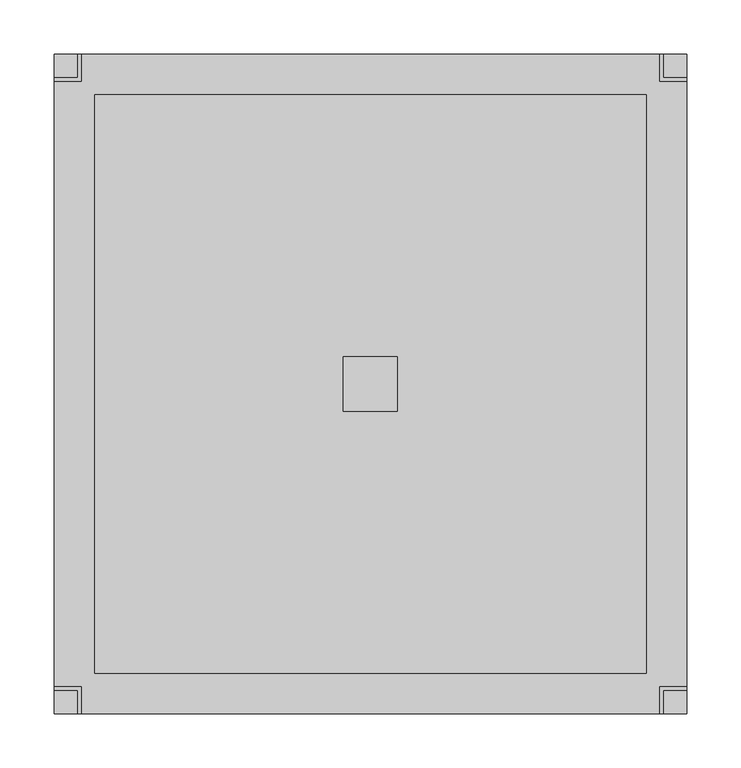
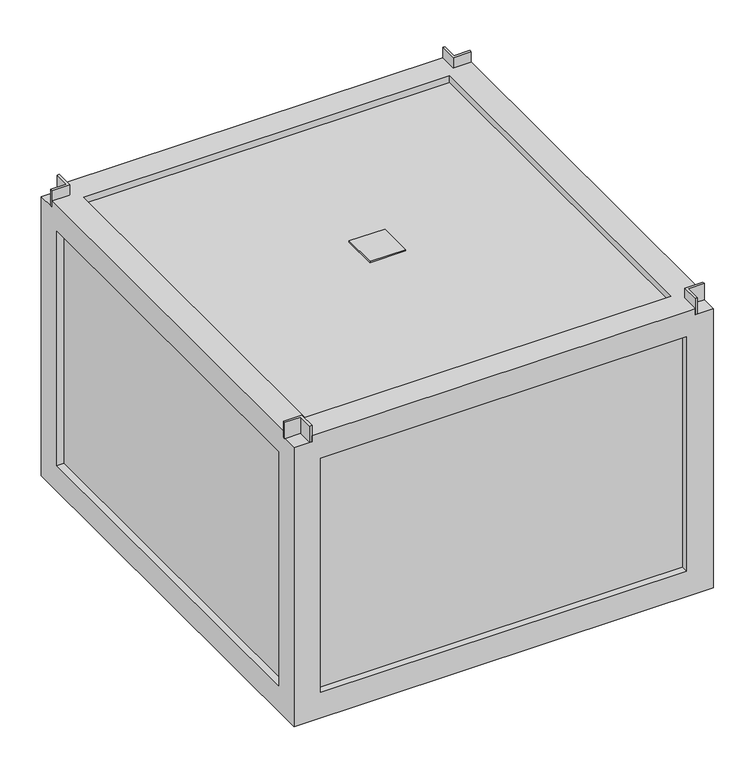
"""IFC4 building model written with IfcOpenShell, lengths in millimetres: proxy geometry, KORF_Вентилятор_UTR_WRH : UTR 40-20 WRH 22.4D."""

import ifcopenshell
import ifcopenshell.guid

model = None  # the IFC model being written
_history = None  # IfcOwnerHistory: only IFC2X3 demands one
_inside = {}  # id of a spatial element -> (the spatial element, [elements in it])
_under = {}  # id of a project, library or spatial element -> (it, [spatial elements below it])
_declared = {}  # id of a project -> (the project, [libraries it declares])
_typed = {}  # id of a type object -> (the type object, [elements of that type])
_made_of = {}  # id of a material, layer set ... -> (it, [elements and type objects made of it])


def new_model(schema):
    """Start an empty IFC model of exactly this schema.

    Asked for "IFC4X3", IfcOpenShell would pick the latest addendum, in which some entities
    have other attributes; the version numbers below select the first issue.
    IFC2X3 requires an IfcOwnerHistory on every rooted entity: one is made here for all.
    """
    global model, _history
    if schema == "IFC4X3":
        model = ifcopenshell.file(schema_version=(4, 3, 0, 0))
    else:
        model = ifcopenshell.file(schema=schema)
    _inside.clear()
    _under.clear()
    _declared.clear()
    _typed.clear()
    _made_of.clear()
    _history = None
    if model.schema == "IFC2X3":
        org = make("IfcOrganization", Name="unknown")
        user = make(
            "IfcPersonAndOrganization",
            ThePerson=make("IfcPerson", FamilyName="unknown"),
            TheOrganization=org,
        )
        app = make(
            "IfcApplication",
            ApplicationDeveloper=org,
            Version="unknown",
            ApplicationFullName="unknown",
            ApplicationIdentifier="unknown",
        )
        _history = make(
            "IfcOwnerHistory",
            OwningUser=user,
            OwningApplication=app,
            ChangeAction="ADDED",
            CreationDate=0,
        )
    return model


def make(cls, **values):
    """One entity of the class cls with the attributes given. An attribute that is None is left unset."""
    return model.create_entity(
        cls, **{name: value for name, value in values.items() if value is not None}
    )


def rooted(cls, **values):
    """An entity with a GlobalId (a new one), such as an element, a storey or a relation."""
    return make(cls, GlobalId=ifcopenshell.guid.new(), OwnerHistory=_history, **values)


def si_unit(unit_type, name, prefix=None):
    """IfcSIUnit, for example si_unit("LENGTHUNIT", "METRE", prefix="MILLI")."""
    return make("IfcSIUnit", UnitType=unit_type, Prefix=prefix, Name=name)


def assignment(units):
    """IfcUnitAssignment: the units of a project."""
    return None if units is None else make("IfcUnitAssignment", Units=units)


def point(xyz):
    """IfcCartesianPoint."""
    return None if xyz is None else make("IfcCartesianPoint", Coordinates=xyz)


def direction(xyz):
    """IfcDirection."""
    return None if xyz is None else make("IfcDirection", DirectionRatios=xyz)


def frame(location, z_axis=None, x_axis=None):
    """IfcAxis2Placement3D, a coordinate frame: its origin and axes. An axis left out is left unset."""
    return make(
        "IfcAxis2Placement3D",
        Location=point(location),
        Axis=direction(z_axis),
        RefDirection=direction(x_axis),
    )


def origin():
    """The frame at (0, 0, 0) with its axes left unset."""
    return frame((0.0, 0.0, 0.0))


def place(relative_to, where):
    """IfcLocalPlacement: puts the frame where relative to a parent placement (None: the world)."""
    return make(
        "IfcLocalPlacement", PlacementRelTo=relative_to, RelativePlacement=where
    )


def context(
    kind, dimensions, precision=None, world=None, true_north=None, identifier=None
):
    """IfcGeometricRepresentationContext, for example the 3D "Model" context."""
    return make(
        "IfcGeometricRepresentationContext",
        ContextIdentifier=identifier,
        ContextType=kind,
        CoordinateSpaceDimension=dimensions,
        Precision=precision,
        WorldCoordinateSystem=world,
        TrueNorth=true_north,
    )


def project(units=None, contexts=None):
    """IfcProject with its units and contexts."""
    return rooted(
        "IfcProject",
        Name="project",
        RepresentationContexts=contexts,
        UnitsInContext=assignment(units),
    )


def spatial(cls, under=None, at=None, **own):
    """A site, building, storey or space (cls), placed at a placement, below another one or the project."""
    s = rooted(cls, ObjectPlacement=at, **own)
    if under is not None:
        _under.setdefault(under.id(), (under, []))[1].append(s)
    return s


def polyline(points):
    """IfcPolyline through the points."""
    return make("IfcPolyline", Points=[point(p) for p in points])


def outline(outer, holes=None, kind="AREA"):
    """IfcArbitraryClosedProfileDef: a profile drawn as a closed curve; with holes, ...WithVoids."""
    if holes is None:
        return make("IfcArbitraryClosedProfileDef", ProfileType=kind, OuterCurve=outer)
    return make(
        "IfcArbitraryProfileDefWithVoids",
        ProfileType=kind,
        OuterCurve=outer,
        InnerCurves=holes,
    )


def extrude(swept, where, along, depth):
    """IfcExtrudedAreaSolid: the profile swept, set in the frame where, extruded along a direction by depth."""
    return make(
        "IfcExtrudedAreaSolid",
        SweptArea=swept,
        Position=where,
        ExtrudedDirection=direction(along),
        Depth=depth,
    )


def faces_of(points, faces, orient=None, outer=None):
    """IfcFace entities. A face is a list of loops; a loop is a list of indices into points, from 0.

    orient and outer hold one flag for each loop. By default every Orientation is true, the
    first loop of a face is its IfcFaceOuterBound and the others are IfcFaceBound.
    """
    made = []
    for i, loops in enumerate(faces):
        bounds = []
        for j, loop in enumerate(loops):
            is_outer = j == 0 if outer is None else outer[i][j]
            bounds.append(
                make(
                    "IfcFaceOuterBound" if is_outer else "IfcFaceBound",
                    Bound=make("IfcPolyLoop", Polygon=[points[k] for k in loop]),
                    Orientation=True if orient is None else orient[i][j],
                )
            )
        made.append(make("IfcFace", Bounds=bounds))
    return made


def faceted_brep(points, faces, orient=None, outer=None, voids=None):
    """IfcFacetedBrep: a solid bounded by flat faces; with voids (closed shells), ...WithVoids."""
    shared = [point(p) for p in points]
    hull = make("IfcClosedShell", CfsFaces=faces_of(shared, faces, orient, outer))
    if voids is None:
        return make("IfcFacetedBrep", Outer=hull)
    return make(
        "IfcFacetedBrepWithVoids",
        Outer=hull,
        Voids=[
            make(cls, CfsFaces=faces_of(shared, fs, o, b)) for cls, fs, o, b in voids
        ],
    )


def shape(context_of_items, identifier, shape_type, items):
    """IfcShapeRepresentation: the items that make up one representation, for example the "Body"."""
    return make(
        "IfcShapeRepresentation",
        ContextOfItems=context_of_items,
        RepresentationIdentifier=identifier,
        RepresentationType=shape_type,
        Items=items,
    )


def source(mapping_origin, context_of_items, identifier, shape_type, items):
    """IfcRepresentationMap: a shape defined once, which mapped items show again and again."""
    return make(
        "IfcRepresentationMap",
        MappingOrigin=mapping_origin,
        MappedRepresentation=shape(context_of_items, identifier, shape_type, items),
    )


def transform(
    local_origin,
    x_axis=None,
    y_axis=None,
    z_axis=None,
    scale=None,
    scale2=None,
    scale3=None,
    uniform=True,
):
    """IfcCartesianTransformationOperator3D, or its non-uniform kind. x_axis, y_axis, z_axis: its Axis1, 2, 3."""
    if uniform:
        return make(
            "IfcCartesianTransformationOperator3D",
            Axis1=direction(x_axis),
            Axis2=direction(y_axis),
            LocalOrigin=point(local_origin),
            Scale=scale,
            Axis3=direction(z_axis),
        )
    return make(
        "IfcCartesianTransformationOperator3DnonUniform",
        Axis1=direction(x_axis),
        Axis2=direction(y_axis),
        LocalOrigin=point(local_origin),
        Scale=scale,
        Axis3=direction(z_axis),
        Scale2=scale2,
        Scale3=scale3,
    )


def mapped(mapping_source, mapping_target):
    """IfcMappedItem: shows the shape of a source again, moved by a transform."""
    return make(
        "IfcMappedItem", MappingSource=mapping_source, MappingTarget=mapping_target
    )


def made_of(thing, what):
    """Note that an element or type object is made of a material, layer set ...; save() writes the relation."""
    if what is not None:
        _made_of.setdefault(what.id(), (what, []))[1].append(thing)
    return thing


def element(
    cls,
    number,
    at=None,
    inside=None,
    cuts=None,
    type_object=None,
    material=None,
    context=None,
    identifier="Body",
    shape_type=None,
    held_by="IfcProductDefinitionShape",
    body=None,
    shapes=None,
    **own,
):
    """One element of the class cls, such as IfcWall. Its Tag is "e" and its number.

    at: its placement. inside: the storey or other place that contains it. cuts: it is an
    opening in that element (IfcRelVoidsElement). A single representation is given by context,
    identifier, shape_type and body (its items); several are given by shapes. held_by: the class
    of the entity that holds the representations. save() writes the other relations.
    """
    e = rooted(cls, Tag="e%d" % number, ObjectPlacement=at, **own)
    if body is not None:
        shapes = [shape(context, identifier, shape_type, body)]
    if shapes is not None:
        e.Representation = make(held_by, Representations=shapes)
    if inside is not None:
        _inside.setdefault(inside.id(), (inside, []))[1].append(e)
    if cuts is not None:
        rooted(
            "IfcRelVoidsElement", RelatingBuildingElement=cuts, RelatedOpeningElement=e
        )
    if type_object is not None:
        _typed.setdefault(type_object.id(), (type_object, []))[1].append(e)
    return made_of(e, material)


def aggregate(whole, parts):
    """IfcRelAggregates: a whole, such as a stair, and the parts it consists of."""
    return rooted("IfcRelAggregates", RelatingObject=whole, RelatedObjects=parts)


def save(model, path):
    """Write the relations noted so far, then the file.

    IfcRelAggregates (storeys below a building ...), IfcRelContainedInSpatialStructure (elements
    in a storey), IfcRelDefinesByType, IfcRelAssociatesMaterial and IfcRelDeclares: one each for
    every whole, place, type object, material and project.
    """
    for whole, parts in _under.values():
        aggregate(whole, parts)
    for where, things in _inside.values():
        rooted(
            "IfcRelContainedInSpatialStructure",
            RelatedElements=things,
            RelatingStructure=where,
        )
    for kind, things in _typed.values():
        rooted("IfcRelDefinesByType", RelatedObjects=things, RelatingType=kind)
    for what, things in _made_of.values():
        rooted("IfcRelAssociatesMaterial", RelatedObjects=things, RelatingMaterial=what)
    for by, libraries in _declared.values():
        rooted("IfcRelDeclares", RelatingContext=by, RelatedDefinitions=libraries)
    model.write(path)


def mechanical_equipment_b97295ec(model_context):
    return source(origin(), model_context, "Body", "SolidModel", [
        extrude(outline(polyline([(267.5, -25.0), (267.5, 25.0), (317.5, 25.0), (317.5, -25.0), (267.5, -25.0)])), frame((0.0, 0.0, 210.0), z_axis=(0.0, 0.0, 1.0), x_axis=(1.0, 0.0, 0.0)), (0.0, 0.0, 1.0), 2.0),
        extrude(outline(polyline([(25.0, 280.0), (0.0, 280.0), (0.0, 283.0), (22.0, 283.0), (22.0, 305.0), (25.0, 305.0), (25.0, 280.0)])), frame((0.0, 0.0, 201.0), z_axis=(0.0, 0.0, 1.0), x_axis=(1.0, 0.0, 0.0)), (0.0, 0.0, 1.0), 24.0),
        extrude(outline(polyline([(560.0, 280.0), (560.0, 305.0), (563.0, 305.0), (563.0, 283.0), (585.0, 283.0), (585.0, 280.0), (560.0, 280.0)])), frame((0.0, 0.0, 201.0), z_axis=(0.0, 0.0, 1.0), x_axis=(1.0, 0.0, 0.0)), (0.0, 0.0, 1.0), 24.0),
        extrude(outline(polyline([(25.0, -280.0), (25.0, -305.0), (22.0, -305.0), (22.0, -283.0), (0.0, -283.0), (0.0, -280.0), (25.0, -280.0)])), frame((0.0, 0.0, 201.0), z_axis=(0.0, 0.0, 1.0), x_axis=(1.0, 0.0, 0.0)), (0.0, 0.0, 1.0), 24.0),
        extrude(outline(polyline([(560.0, -280.0), (585.0, -280.0), (585.0, -283.0), (563.0, -283.0), (563.0, -305.0), (560.0, -305.0), (560.0, -280.0)])), frame((0.0, 0.0, 201.0), z_axis=(0.0, 0.0, 1.0), x_axis=(1.0, 0.0, 0.0)), (0.0, 0.0, 1.0), 24.0),
        extrude(outline(polyline([(575.0, 295.0), (575.0, -295.0), (10.0, -295.0), (10.0, 295.0), (575.0, 295.0)])), frame((0.0, 0.0, -200.0), z_axis=(0.0, 0.0, 1.0), x_axis=(1.0, 0.0, 0.0)), (0.0, 0.0, 1.0), 400.0),
        faceted_brep([(0.0, -304.9999993, -209.9999993), (585.0, -304.9999993, -209.9999993), (584.9999993, -304.9999993, 201.0), (560.0, -304.9999993, 201.0), (560.0, -304.9999993, 210.0), (25.0, -304.9999993, 209.9999993), (25.0, -304.9999993, 201.0), (0.0, -304.9999993, 201.0), (37.5, -304.9999993, -172.4999993), (37.5, -304.9999993, 172.5), (547.4999993, -304.9999993, 172.5), (547.4999993, -304.9999993, -172.4999993), (10.000001, -294.9999993, -199.9999993), (10.000001, -294.9999993, 199.9999993), (574.9999993, -294.9999993, 199.999999), (574.999999, -294.9999993, -199.9999993), (37.5, -294.9999993, 172.5), (37.5, -294.9999993, -172.4999993), (547.4999993, -294.9999993, -172.4999993), (547.4999993, -294.9999993, 172.5), (0.0, -267.4999993, 172.4999993), (10.000001, -267.4999993, 172.4999993), (10.000001, -267.4999993, -172.4999993), (0.0, -267.4999993, -172.4999993), (0.0, 304.9999993, -209.9999993), (585.0, 305.0, -209.9999993), (547.5, -267.5, -209.9999993), (547.5, 267.5, -209.9999993), (37.5, 267.5, -209.9999993), (37.5, -267.5, -209.9999993), (10.000001, 294.9999993, -199.9999993), (574.999999, 294.999999, -199.9999993), (547.5, 267.5, -199.9999993), (547.5, -267.5, -199.9999993), (37.5, -267.5, -199.9999993), (37.5, 267.5, -199.9999993), (10.000001, 267.4999993, -172.4999993), (0.0, 267.4999993, -172.4999993), (0.0, 304.9999993, 201.0), (25.0, 304.9999993, 201.0), (25.0, 304.9999993, 209.9999993), (560.0, 304.9999993, 210.0), (560.0, 304.9999993, 201.0), (584.9999993, 304.9999993, 201.0), (37.5, 304.9999993, 172.5), (37.5, 304.9999993, -172.4999993), (547.4999993, 304.9999993, -172.4999993), (547.4999993, 304.9999993, 172.5), (10.000001, 294.9999993, 199.9999993), (574.9999993, 294.9999993, 199.999999), (37.5, 294.9999993, -172.4999993), (37.5, 294.9999993, 172.5), (547.4999993, 294.9999993, 172.5), (547.4999993, 294.9999993, -172.4999993), (10.000001, 267.4999993, 172.4999993), (0.0, 267.4999993, 172.4999993), (0.0, -280.0, 201.0), (0.0, -280.0, 209.9999993), (0.0, 280.0, 209.9999993), (0.0, 280.0, 201.0), (560.0, -280.0, 209.9999993), (584.9999993, -280.0, 209.9999993), (584.9999993, 280.0, 209.9999993), (560.0, 280.0, 209.9999993), (25.0, 280.0, 209.9999993), (25.0, -280.0, 209.9999993), (547.4999993, 267.4999993, 209.9999993), (547.4999993, -267.4999993, 209.9999993), (37.5000007, -267.4999993, 209.9999993), (37.5, 267.4999993, 209.9999993), (37.5, -267.4999993, 199.9999993), (37.5, 267.4999993, 199.9999993), (547.4999993, -267.4999993, 199.9999993), (547.4999993, 267.4999993, 199.9999993), (584.9999993, 280.0, 201.0), (584.9999993, -280.0, 201.0), (584.9999993, -267.5, -172.5), (584.9999993, -267.5, 172.5), (584.9999993, 267.5, 172.5), (584.9999993, 267.5, -172.5), (574.9999993, -267.5, 172.5), (574.9999993, -267.5, -172.5), (574.9999993, 267.5, -172.4999993), (574.9999993, 267.5, 172.5), (25.0, 280.0, 201.0), (560.0, 280.0, 201.0), (560.0, -280.0, 201.0), (25.0, -280.0, 201.0)], [[[0, 1, 2, 3, 4, 5, 6, 7], [8, 9, 10, 11]], [[12, 13, 14, 15], [16, 17, 18, 19]], [[20, 21, 22, 23]], [[0, 24, 25, 1], [26, 27, 28, 29]], [[30, 12, 15, 31], [32, 33, 34, 35]], [[23, 22, 36, 37]], [[25, 24, 38, 39, 40, 41, 42, 43], [44, 45, 46, 47]], [[48, 30, 31, 49], [50, 51, 52, 53]], [[37, 36, 54, 55]], [[24, 0, 7, 56, 57, 58, 59, 38], [20, 23, 37, 55]], [[5, 4, 60, 61, 62, 63, 41, 40, 64, 58, 57, 65], [66, 67, 68, 69]], [[35, 34, 29, 28]], [[69, 68, 70, 71]], [[16, 9, 8, 17]], [[44, 51, 50, 45]], [[13, 48, 49, 14], [72, 73, 71, 70]], [[12, 30, 48, 13], [22, 21, 54, 36]], [[21, 20, 55, 54]], [[1, 25, 43, 74, 62, 61, 75, 2], [76, 77, 78, 79]], [[14, 49, 31, 15], [80, 81, 82, 83]], [[66, 73, 72, 67]], [[67, 72, 70, 68]], [[9, 16, 19, 10]], [[51, 44, 47, 52]], [[80, 83, 78, 77]], [[73, 66, 69, 71]], [[32, 27, 26, 33]], [[33, 26, 29, 34]], [[27, 32, 35, 28]], [[17, 8, 11, 18]], [[45, 50, 53, 46]], [[76, 79, 82, 81]], [[77, 76, 81, 80]], [[79, 78, 83, 82]], [[11, 10, 19, 18]], [[47, 46, 53, 52]], [[59, 84, 39, 38]], [[42, 85, 74, 43]], [[75, 86, 3, 2]], [[87, 56, 7, 6]], [[84, 59, 58, 64]], [[39, 84, 64, 40]], [[85, 42, 41, 63]], [[74, 85, 63, 62]], [[86, 75, 61, 60]], [[3, 86, 60, 4]], [[56, 87, 65, 57]], [[87, 6, 5, 65]]]),
    ])


if __name__ == "__main__":
    model = new_model("IFC4")
    model_context = context("Model", 3, world=origin())
    ifc_project = project(units=[si_unit("LENGTHUNIT", "METRE", prefix="MILLI")], contexts=[model_context])
    site = spatial("IfcSite", under=ifc_project)
    building = spatial("IfcBuilding", under=site)
    placement = place(None, origin())
    mechanical_equipment_shape = mechanical_equipment_b97295ec(model_context)
    element("IfcBuildingElementProxy", 1, Name="KORF_Вентилятор_UTR_WRH : UTR 40-20 WRH 22.4D", ObjectType="KORF_Вентилятор_UTR_WRH : UTR 40-20 WRH 22.4D", at=placement, inside=building, context=model_context, shape_type="MappedRepresentation", body=[
        mapped(mechanical_equipment_shape, transform((0.0, 0.0, 0.0), x_axis=(1.0, 0.0, 0.0), y_axis=(0.0, 1.0, 0.0), z_axis=(0.0, 0.0, 1.0))),
    ])
    save(model, "model.ifc")
